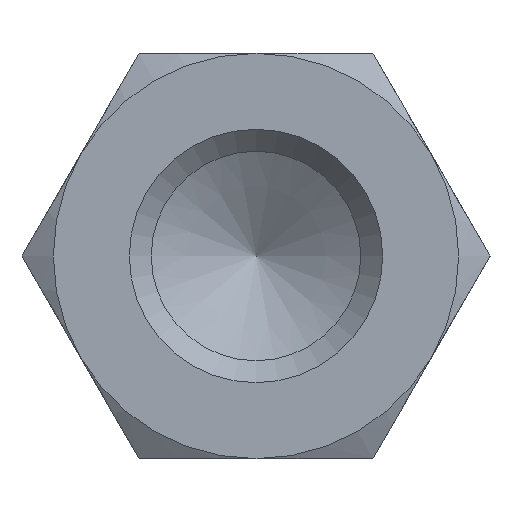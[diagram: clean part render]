
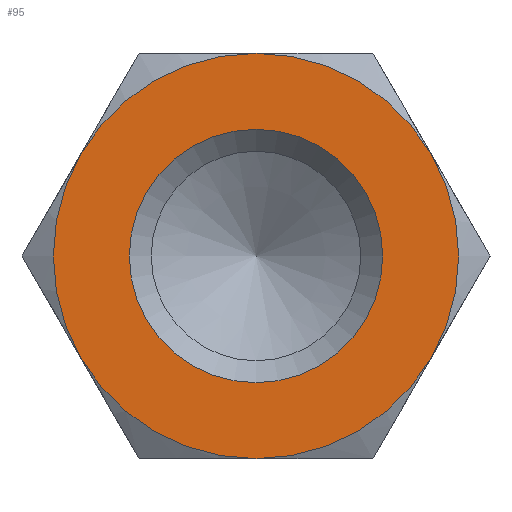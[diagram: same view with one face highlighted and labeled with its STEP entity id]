
A CAD part, left-side view. The second image highlights one B-rep face of the part: STEP entity #95.
In plain terms, the highlighted planar face has unit normal (-1, 0, 0).
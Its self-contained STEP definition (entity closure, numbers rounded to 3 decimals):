
#95 = ADVANCED_FACE( '', ( #147, #148 ), #149, .F. );
#147 = FACE_OUTER_BOUND( '', #206, .T. );
#148 = FACE_BOUND( '', #207, .T. );
#149 = PLANE( '', #208 );
#206 = EDGE_LOOP( '', ( #356, #357, #358, #359, #360, #361 ) );
#207 = EDGE_LOOP( '', ( #362 ) );
#208 = AXIS2_PLACEMENT_3D( '', #363, #364, #365 );
#356 = ORIENTED_EDGE( '', *, *, #440, .F. );
#357 = ORIENTED_EDGE( '', *, *, #425, .F. );
#358 = ORIENTED_EDGE( '', *, *, #441, .F. );
#359 = ORIENTED_EDGE( '', *, *, #437, .F. );
#360 = ORIENTED_EDGE( '', *, *, #442, .F. );
#361 = ORIENTED_EDGE( '', *, *, #443, .F. );
#362 = ORIENTED_EDGE( '', *, *, #439, .T. );
#363 = CARTESIAN_POINT( '', ( -35., 0., 0. ) );
#364 = DIRECTION( '', ( 1., 0., 0. ) );
#365 = DIRECTION( '', ( 0., 0., -1. ) );
#425 = EDGE_CURVE( '', #495, #493, #497, .T. );
#437 = EDGE_CURVE( '', #447, #506, #513, .T. );
#439 = EDGE_CURVE( '', #516, #516, #517, .T. );
#440 = EDGE_CURVE( '', #493, #486, #518, .T. );
#441 = EDGE_CURVE( '', #506, #495, #519, .T. );
#442 = EDGE_CURVE( '', #481, #447, #520, .T. );
#443 = EDGE_CURVE( '', #486, #481, #521, .T. );
#447 = VERTEX_POINT( '', #525 );
#481 = VERTEX_POINT( '', #595 );
#486 = VERTEX_POINT( '', #611 );
#493 = VERTEX_POINT( '', #632 );
#495 = VERTEX_POINT( '', #637 );
#497 = CIRCLE( '', #644, 4. );
#506 = VERTEX_POINT( '', #670 );
#513 = CIRCLE( '', #701, 4. );
#516 = VERTEX_POINT( '', #704 );
#517 = CIRCLE( '', #705, 2.5 );
#518 = CIRCLE( '', #706, 4. );
#519 = CIRCLE( '', #707, 4. );
#520 = CIRCLE( '', #708, 4. );
#521 = CIRCLE( '', #709, 4. );
#525 = CARTESIAN_POINT( '', ( -35., -3.464, 2. ) );
#595 = CARTESIAN_POINT( '', ( -35., 0., 4. ) );
#611 = CARTESIAN_POINT( '', ( -35., 3.464, 2. ) );
#632 = CARTESIAN_POINT( '', ( -35., 3.464, -2. ) );
#637 = CARTESIAN_POINT( '', ( -35., 0., -4. ) );
#644 = AXIS2_PLACEMENT_3D( '', #744, #745, #746 );
#670 = CARTESIAN_POINT( '', ( -35., -3.464, -2. ) );
#701 = AXIS2_PLACEMENT_3D( '', #749, #750, #751 );
#704 = CARTESIAN_POINT( '', ( -35., 2.5, 0. ) );
#705 = AXIS2_PLACEMENT_3D( '', #755, #756, #757 );
#706 = AXIS2_PLACEMENT_3D( '', #758, #759, #760 );
#707 = AXIS2_PLACEMENT_3D( '', #761, #762, #763 );
#708 = AXIS2_PLACEMENT_3D( '', #764, #765, #766 );
#709 = AXIS2_PLACEMENT_3D( '', #767, #768, #769 );
#744 = CARTESIAN_POINT( '', ( -35., 0., 0. ) );
#745 = DIRECTION( '', ( 1., 0., 0. ) );
#746 = DIRECTION( '', ( 0., 0., -1. ) );
#749 = CARTESIAN_POINT( '', ( -35., 0., 0. ) );
#750 = DIRECTION( '', ( 1., 0., 0. ) );
#751 = DIRECTION( '', ( 0., 0., -1. ) );
#755 = CARTESIAN_POINT( '', ( -35., 0., 0. ) );
#756 = DIRECTION( '', ( 1., 0., 0. ) );
#757 = DIRECTION( '', ( 0., 1., 0. ) );
#758 = CARTESIAN_POINT( '', ( -35., 0., 0. ) );
#759 = DIRECTION( '', ( 1., 0., 0. ) );
#760 = DIRECTION( '', ( 0., 0., -1. ) );
#761 = CARTESIAN_POINT( '', ( -35., 0., 0. ) );
#762 = DIRECTION( '', ( 1., 0., 0. ) );
#763 = DIRECTION( '', ( 0., 0., -1. ) );
#764 = CARTESIAN_POINT( '', ( -35., 0., 0. ) );
#765 = DIRECTION( '', ( 1., 0., 0. ) );
#766 = DIRECTION( '', ( 0., 0., -1. ) );
#767 = CARTESIAN_POINT( '', ( -35., 0., 0. ) );
#768 = DIRECTION( '', ( 1., 0., 0. ) );
#769 = DIRECTION( '', ( 0., 0., -1. ) );
